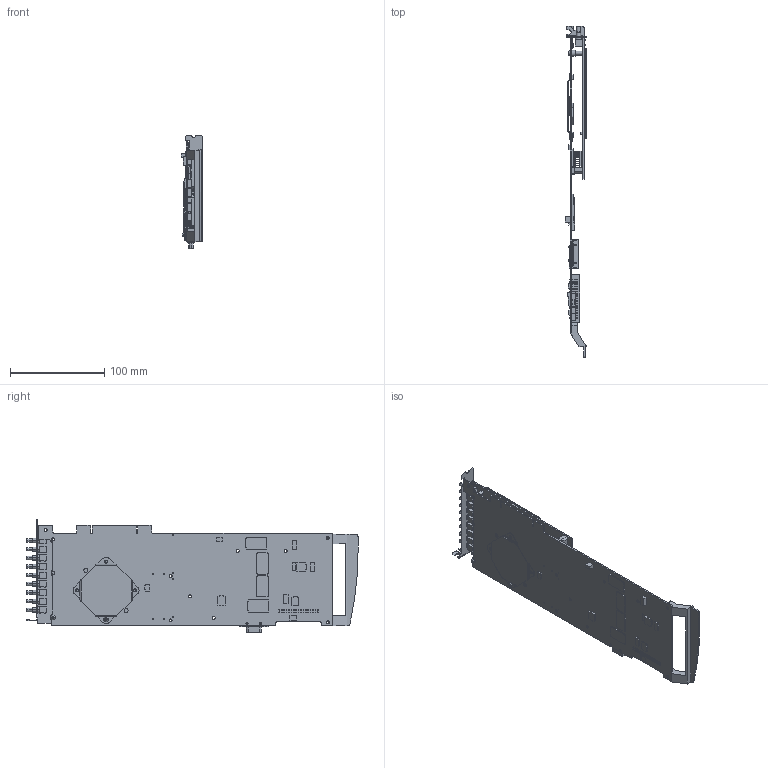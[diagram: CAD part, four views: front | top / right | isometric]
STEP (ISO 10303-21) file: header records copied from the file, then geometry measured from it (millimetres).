
FILE_DESCRIPTION((''),'2;1');
FILE_NAME('CU_PCI-5105_W_RETAINER','2009-12-14T',('jjorden'),(''),'PRO/ENGINEER BY PARAMETRIC TECHNOLOGY CORPORATION, 2006080','PRO/ENGINEER BY PARAMETRIC TECHNOLOGY CORPORATION, 2006080','');
FILE_SCHEMA(('CONFIG_CONTROL_DESIGN'));
Products named in the file (1): CU_PCI-5105_W_RETAINER
Bounding box: 23.09 x 352.19 x 119.99 mm (x, y, z)
Volume: 108056.6 mm3; surface area: 139553.6 mm2
Topology: 1 solids, 1 shells, 3517 faces, 9423 edges, 6060 vertices
Faces by surface type: plane 2748, cylinder 597, bspline 66, cone 58, torus 32, sphere 16
Entity records: 114179 total; most frequent: CARTESIAN_POINT 24987, ORIENTED_EDGE 18814, DIRECTION 17493, EDGE_CURVE 9407, VECTOR 7721, LINE 7721, VERTEX_POINT 6136, AXIS2_PLACEMENT_3D 4886
